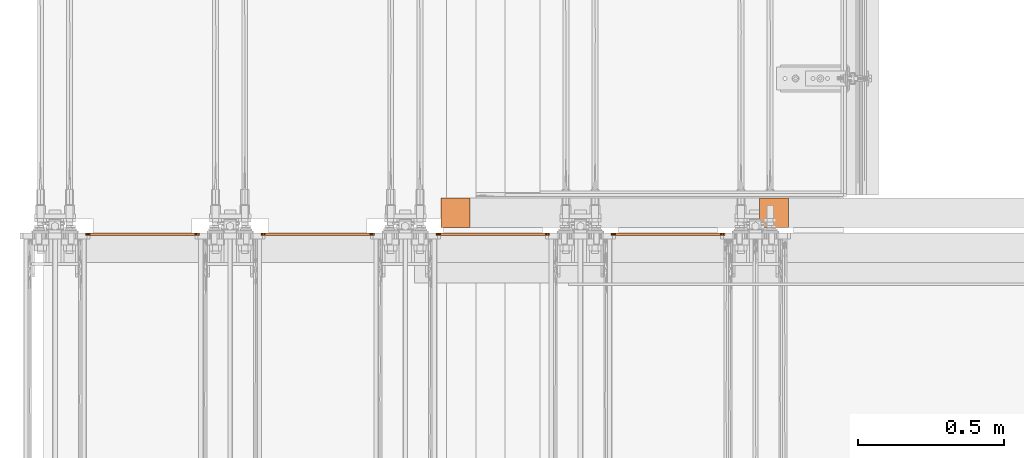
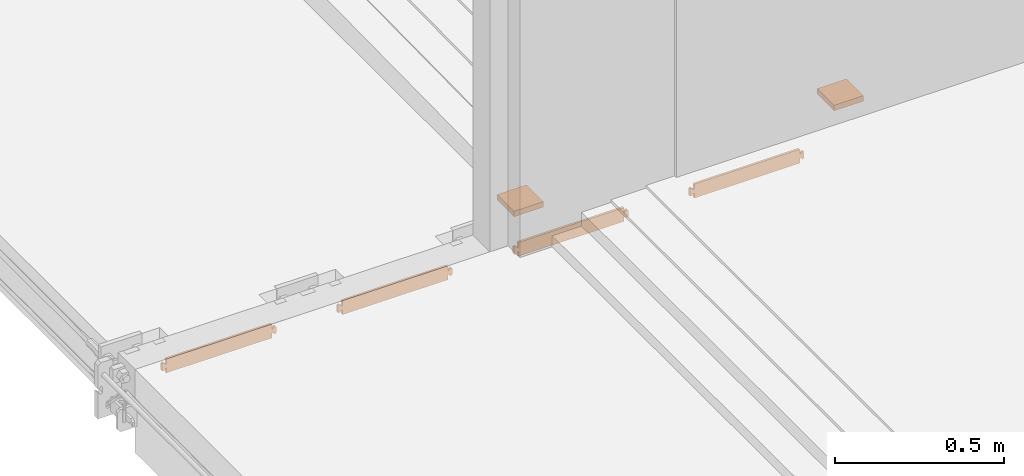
# One storey, part 16 of 17: 5 proxies.
"""IFC2X3 building model written with IfcOpenShell, lengths in metres."""

from ifc_helpers import new_model, entity, si_unit, converted_unit, derived_unit, direction, frame, frame_2d, origin, place, context, subcontext, project, spatial, polyline, rectangle, outline, extrude, source, transform, mapped, material, type_object, type_shapes, element, save


model = new_model("IFC2X3")

# Units and contexts
model_context = context("Model", 3, precision=1e-05, world=origin(), true_north=direction((6.123031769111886e-17, 1.0)))
plan_context = context("Plan", 3, precision=1e-05, world=origin(), true_north=direction((6.123031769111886e-17, 1.0)))
body_context = subcontext(model_context, "Body", "Model", "MODEL_VIEW")
ifc_project = project(units=[si_unit("LENGTHUNIT", "METRE"), si_unit("AREAUNIT", "SQUARE_METRE"), converted_unit("PLANEANGLEUNIT", "DEGREE", entity("IfcPlaneAngleMeasure", 0.017453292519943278), si_unit("PLANEANGLEUNIT", "RADIAN"), dimensions=[0, 0, 0, 0, 0, 0, 0]), si_unit("VOLUMEUNIT", "CUBIC_METRE"), derived_unit("THERMALTRANSMITTANCEUNIT", [(si_unit("MASSUNIT", "GRAM", prefix="KILO"), 1), (si_unit("THERMODYNAMICTEMPERATUREUNIT", "KELVIN"), -1), (si_unit("TIMEUNIT", "SECOND"), -3)]), derived_unit("USERDEFINED", [(si_unit("MASSUNIT", "GRAM", prefix="KILO"), 1), (si_unit("THERMODYNAMICTEMPERATUREUNIT", "KELVIN"), -1), (si_unit("TIMEUNIT", "SECOND"), -2)]), derived_unit("THERMALRESISTANCEUNIT", [(si_unit("MASSUNIT", "GRAM", prefix="KILO"), -1), (si_unit("TIMEUNIT", "SECOND"), 3), (si_unit("THERMODYNAMICTEMPERATUREUNIT", "KELVIN"), 1)]), si_unit("PRESSUREUNIT", "PASCAL"), derived_unit("MASSDENSITYUNIT", [(si_unit("MASSUNIT", "GRAM", prefix="KILO"), 1), (si_unit("LENGTHUNIT", "METRE"), -3)]), derived_unit("VAPORPERMEABILITYUNIT", [(si_unit("LENGTHUNIT", "METRE"), -1), (si_unit("TIMEUNIT", "SECOND"), 1)]), derived_unit("USERDEFINED", [(si_unit("MASSUNIT", "GRAM", prefix="KILO"), 1), (si_unit("TIMEUNIT", "SECOND"), -3), (si_unit("LENGTHUNIT", "METRE"), 3), (si_unit("ELECTRICCURRENTUNIT", "AMPERE"), -2)])], contexts=[model_context, plan_context])

# Site, building, storey
site_placement = place(None, origin())
site = spatial("IfcSite", under=ifc_project, at=site_placement, Name="Default", CompositionType="ELEMENT")
building_placement = place(site_placement, origin())
building = spatial("IfcBuilding", under=site, at=building_placement, CompositionType="ELEMENT")
storey_placement = place(building_placement, origin())
storey = spatial("IfcBuildingStorey", under=building, at=storey_placement, Name="L0", CompositionType="ELEMENT", Elevation=0.0)

# Proxies
ifc_material_1 = material(Name="Caucho, butilo")
building_element_proxy_type_1 = type_object("IfcBuildingElementProxyType", Name="Calzo termoplastico:Calzo termoplastico", PredefinedType="NOTDEFINED", material=ifc_material_1)
shared_shape_1 = source(origin(), body_context, "Body", "SweptSolid", [
    extrude(rectangle(XDim=0.1, YDim=0.10000000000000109, at=frame_2d((-5.412337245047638e-16, 1.0824674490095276e-15), x_axis=(1.0, 0.0))), frame((6.557720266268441, 14.864530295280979, 0.0)), (0.0, 0.0, 1.0), 0.019999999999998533),
    extrude(rectangle(XDim=0.1, YDim=0.10000000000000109, at=frame_2d((-5.412337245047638e-16, 1.0824674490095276e-15), x_axis=(1.0, 0.0))), frame((7.648573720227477, 14.864530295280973, 0.0)), (0.0, 0.0, 1.0), 0.019999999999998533),
])
type_shapes(building_element_proxy_type_1, [shared_shape_1])
proxy_1_placement = place(storey_placement, origin())
element("IfcBuildingElementProxy", 1, at=proxy_1_placement, inside=storey, type_object=building_element_proxy_type_1, material=ifc_material_1, Name="Calzo termoplastico:Calzo termoplastico", ObjectType="Calzo termoplastico:Calzo termoplastico", context=body_context, shape_type="MappedRepresentation", body=[
    mapped(shared_shape_1, transform((0.0, 0.0, 0.0), scale=1.0)),
])
ifc_material_2 = material(Name="REC_Acero, S 275JR (Zincado)")
building_element_proxy_type_2 = type_object("IfcBuildingElementProxyType", Name="Placa de separación:FBAIGCEQ", PredefinedType="NOTDEFINED", material=ifc_material_2)
shared_shape_2 = source(origin(), body_context, "Body", "SweptSolid", [
    extrude(outline(polyline([(-0.024999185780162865, 0.21719740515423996), (-0.024999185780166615, -0.14264259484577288), (-0.024999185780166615, -0.1428025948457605), (-0.00749918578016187, -0.1428025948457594), (-0.0072991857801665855, -0.1428025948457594), (-0.007299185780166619, -0.14600259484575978), (-0.00794355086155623, -0.14755822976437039), (-0.009499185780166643, -0.14820259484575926), (-0.009999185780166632, -0.14820259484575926), (-0.014358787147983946, -0.15099414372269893), (-0.014193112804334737, -0.15470821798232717), (-0.012659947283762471, -0.15699763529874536), (-0.009999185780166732, -0.15780259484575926), (0.010000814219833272, -0.15780259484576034), (0.012625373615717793, -0.15702151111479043), (0.014194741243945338, -0.15470821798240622), (0.014364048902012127, -0.15100204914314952), (0.010000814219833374, -0.14820259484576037), (0.009500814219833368, -0.14820259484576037), (0.007945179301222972, -0.14755822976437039), (0.007300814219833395, -0.14600259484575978), (0.007300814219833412, -0.1428025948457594), (0.0075008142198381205, -0.1428025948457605), (0.025000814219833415, -0.1428025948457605), (0.025000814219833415, -0.14264259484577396), (0.025000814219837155, 0.21719740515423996), (0.007300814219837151, 0.21719740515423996), (0.007300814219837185, 0.22039740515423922), (0.007945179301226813, 0.22195304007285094), (0.009500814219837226, 0.2225974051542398), (0.010000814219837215, 0.2225974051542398), (0.014800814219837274, 0.2273974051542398), (0.010000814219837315, 0.2321974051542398), (-0.009999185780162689, 0.2321974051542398), (-0.014799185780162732, 0.2273974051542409), (-0.009999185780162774, 0.2225974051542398), (-0.009499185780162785, 0.2225974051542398), (-0.007943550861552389, 0.22195304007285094), (-0.007299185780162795, 0.2203974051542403), (-0.007299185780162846, 0.21719740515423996), (-0.024999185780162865, 0.21719740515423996)])), frame((5.448282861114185, 14.786530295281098, 8.142198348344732e-07), z_axis=(0.0, -1.0, 0.0), x_axis=(0.0, 0.0, -1.0)), (0.0, 0.0, -1.0), 0.008000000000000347),
])
type_shapes(building_element_proxy_type_2, [shared_shape_2])
proxy_2_placement = place(storey_placement, frame((0.0, 0.0, -0.09999999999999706)))
element("IfcBuildingElementProxy", 2, at=proxy_2_placement, inside=storey, type_object=building_element_proxy_type_2, material=ifc_material_2, Name="Placa de separación:FBAIGCEQ", ObjectType="Placa de separación:FBAIGCEQ", context=body_context, shape_type="MappedRepresentation", body=[
    mapped(shared_shape_2, transform((0.0, 0.0, 0.0), scale=1.0)),
])
building_element_proxy_type_3 = type_object("IfcBuildingElementProxyType", Name="Placa de separación:FBAIGCEQ", PredefinedType="NOTDEFINED", material=ifc_material_2)
shared_shape_3 = source(origin(), body_context, "Body", "SweptSolid", [
    extrude(outline(polyline([(-0.02499918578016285, 0.21719740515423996), (-0.024999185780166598, -0.14264259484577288), (-0.024999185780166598, -0.1428025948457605), (-0.007499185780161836, -0.1428025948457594), (-0.0072991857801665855, -0.1428025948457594), (-0.007299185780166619, -0.14600259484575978), (-0.00794355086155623, -0.14755822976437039), (-0.009499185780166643, -0.14820259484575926), (-0.009999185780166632, -0.14820259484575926), (-0.014358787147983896, -0.15099414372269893), (-0.014193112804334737, -0.15470821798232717), (-0.012659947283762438, -0.15699763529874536), (-0.009999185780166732, -0.15780259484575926), (0.010000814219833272, -0.15780259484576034), (0.01262537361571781, -0.15702151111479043), (0.014194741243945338, -0.15470821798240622), (0.014364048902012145, -0.15100204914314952), (0.010000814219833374, -0.14820259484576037), (0.009500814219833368, -0.14820259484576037), (0.007945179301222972, -0.14755822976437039), (0.007300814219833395, -0.14600259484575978), (0.007300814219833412, -0.1428025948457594), (0.007500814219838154, -0.1428025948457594), (0.025000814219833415, -0.1428025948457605), (0.025000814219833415, -0.14264259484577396), (0.025000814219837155, 0.21719740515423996), (0.007300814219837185, 0.21719740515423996), (0.007300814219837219, 0.22039740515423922), (0.007945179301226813, 0.22195304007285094), (0.009500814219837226, 0.2225974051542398), (0.010000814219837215, 0.2225974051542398), (0.014800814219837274, 0.2273974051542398), (0.010000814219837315, 0.2321974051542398), (-0.009999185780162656, 0.2321974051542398), (-0.014799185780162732, 0.2273974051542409), (-0.009999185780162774, 0.2225974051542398), (-0.009499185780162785, 0.2225974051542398), (-0.007943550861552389, 0.22195304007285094), (-0.007299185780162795, 0.2203974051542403), (-0.0072991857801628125, 0.21719740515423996), (-0.02499918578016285, 0.21719740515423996)])), frame((6.048322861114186, 14.786530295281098, 8.14219834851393e-07), z_axis=(0.0, -1.0, 0.0), x_axis=(0.0, 0.0, -1.0)), (0.0, 0.0, -1.0), 0.008000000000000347),
])
type_shapes(building_element_proxy_type_3, [shared_shape_3])
proxy_3_placement = place(storey_placement, frame((0.0, 0.0, -0.09999999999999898)))
element("IfcBuildingElementProxy", 3, at=proxy_3_placement, inside=storey, type_object=building_element_proxy_type_3, material=ifc_material_2, Name="Placa de separación:FBAIGCEQ", ObjectType="Placa de separación:FBAIGCEQ", context=body_context, shape_type="MappedRepresentation", body=[
    mapped(shared_shape_3, transform((0.0, 0.0, 0.0), scale=1.0)),
])
building_element_proxy_type_4 = type_object("IfcBuildingElementProxyType", Name="Placa de separación:FBAIGCEQ", PredefinedType="NOTDEFINED", material=ifc_material_2)
shared_shape_4 = source(origin(), body_context, "Body", "SweptSolid", [
    extrude(outline(polyline([(-0.024999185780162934, 0.21719740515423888), (-0.02499918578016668, -0.14264259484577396), (-0.02499918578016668, -0.14280259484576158), (-0.007499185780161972, -0.1428025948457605), (-0.00729918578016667, -0.1428025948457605), (-0.0072991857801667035, -0.14600259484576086), (-0.007943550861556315, -0.14755822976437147), (-0.009499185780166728, -0.14820259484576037), (-0.009999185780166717, -0.14820259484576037), (-0.014358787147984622, -0.1509941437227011), (-0.01419311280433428, -0.15470821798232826), (-0.012659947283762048, -0.15699763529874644), (-0.009999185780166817, -0.15780259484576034), (0.010000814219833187, -0.15780259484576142), (0.012625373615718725, -0.15702151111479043), (0.014194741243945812, -0.15470821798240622), (0.014364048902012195, -0.15100204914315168), (0.010000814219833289, -0.14820259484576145), (0.009500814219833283, -0.14820259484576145), (0.007945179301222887, -0.14755822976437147), (0.0073008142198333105, -0.14600259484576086), (0.007300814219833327, -0.1428025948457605), (0.007500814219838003, -0.1428025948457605), (0.025000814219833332, -0.14280259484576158), (0.025000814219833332, -0.14264259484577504), (0.02500081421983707, 0.21719740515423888), (0.0073008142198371, 0.21719740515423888), (0.007300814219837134, 0.22039740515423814), (0.00794517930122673, 0.22195304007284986), (0.009500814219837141, 0.22259740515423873), (0.01000081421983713, 0.22259740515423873), (0.014800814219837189, 0.22739740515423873), (0.01000081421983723, 0.23219740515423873), (-0.00999918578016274, 0.23219740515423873), (-0.014799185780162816, 0.2273974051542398), (-0.009999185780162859, 0.22259740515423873), (-0.00949918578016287, 0.22259740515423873), (-0.007943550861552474, 0.22195304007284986), (-0.00729918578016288, 0.22039740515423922), (-0.007299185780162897, 0.21719740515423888), (-0.024999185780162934, 0.21719740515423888)])), frame((6.648362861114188, 14.786530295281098, 8.14219834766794e-07), z_axis=(0.0, -1.0, 0.0), x_axis=(0.0, 0.0, -1.0)), (0.0, 0.0, -1.0), 0.008000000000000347),
])
type_shapes(building_element_proxy_type_4, [shared_shape_4])
proxy_4_placement = place(storey_placement, frame((0.0, 0.0, -0.10000000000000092)))
element("IfcBuildingElementProxy", 4, at=proxy_4_placement, inside=storey, type_object=building_element_proxy_type_4, material=ifc_material_2, Name="Placa de separación:FBAIGCEQ", ObjectType="Placa de separación:FBAIGCEQ", context=body_context, shape_type="MappedRepresentation", body=[
    mapped(shared_shape_4, transform((0.0, 0.0, 0.0), scale=1.0)),
])
building_element_proxy_type_5 = type_object("IfcBuildingElementProxyType", Name="Placa de separación:FBAIGCEQ", PredefinedType="NOTDEFINED", material=ifc_material_2)
shared_shape_5 = source(origin(), body_context, "Body", "SweptSolid", [
    extrude(outline(polyline([(-0.024999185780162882, 0.21719740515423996), (-0.02499918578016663, -0.14264259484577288), (-0.02499918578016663, -0.1428025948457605), (-0.007499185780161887, -0.1428025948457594), (-0.007299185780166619, -0.1428025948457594), (-0.007299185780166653, -0.14600259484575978), (-0.007943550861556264, -0.14755822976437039), (-0.009499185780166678, -0.14820259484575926), (-0.009999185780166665, -0.14820259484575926), (-0.01435878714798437, -0.1509941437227), (-0.014193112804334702, -0.15470821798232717), (-0.012659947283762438, -0.15699763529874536), (-0.009999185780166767, -0.15780259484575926), (0.010000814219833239, -0.15780259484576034), (0.012625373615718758, -0.15702151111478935), (0.014194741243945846, -0.15470821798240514), (0.014364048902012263, -0.1510020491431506), (0.01000081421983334, -0.14820259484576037), (0.009500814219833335, -0.14820259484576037), (0.007945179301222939, -0.14755822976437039), (0.007300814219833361, -0.14600259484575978), (0.007300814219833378, -0.1428025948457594), (0.007500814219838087, -0.1428025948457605), (0.02500081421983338, -0.1428025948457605), (0.02500081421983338, -0.14264259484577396), (0.02500081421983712, 0.21719740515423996), (0.007300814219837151, 0.21719740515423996), (0.007300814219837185, 0.22039740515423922), (0.00794517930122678, 0.22195304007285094), (0.009500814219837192, 0.2225974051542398), (0.01000081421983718, 0.2225974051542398), (0.01480081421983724, 0.2273974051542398), (0.010000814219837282, 0.2321974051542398), (-0.009999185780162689, 0.2321974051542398), (-0.014799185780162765, 0.2273974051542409), (-0.009999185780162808, 0.2225974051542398), (-0.00949918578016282, 0.2225974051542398), (-0.007943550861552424, 0.22195304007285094), (-0.007299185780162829, 0.2203974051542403), (-0.007299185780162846, 0.21719740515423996), (-0.024999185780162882, 0.21719740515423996)])), frame((7.248402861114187, 14.786530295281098, 8.142198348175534e-07), z_axis=(0.0, -1.0, 0.0), x_axis=(0.0, 0.0, -1.0)), (0.0, 0.0, -1.0), 0.008000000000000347),
])
type_shapes(building_element_proxy_type_5, [shared_shape_5])
proxy_5_placement = place(storey_placement, frame((0.0, 0.0, -0.10000000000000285)))
element("IfcBuildingElementProxy", 5, at=proxy_5_placement, inside=storey, type_object=building_element_proxy_type_5, material=ifc_material_2, Name="Placa de separación:FBAIGCEQ", ObjectType="Placa de separación:FBAIGCEQ", context=body_context, shape_type="MappedRepresentation", body=[
    mapped(shared_shape_5, transform((0.0, 0.0, 0.0), scale=1.0)),
])

save(model, "model.ifc")
